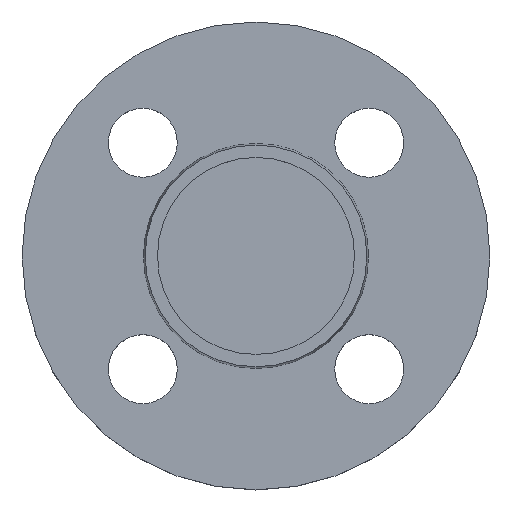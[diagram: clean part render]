
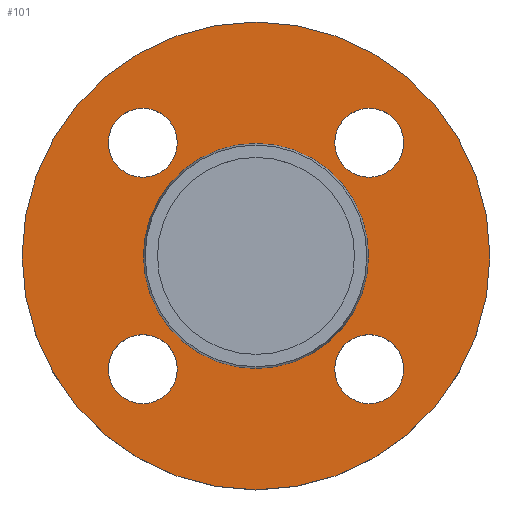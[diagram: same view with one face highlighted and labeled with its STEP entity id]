
A CAD part, top view. The second image highlights one B-rep face of the part: STEP entity #101.
In plain terms, the highlighted planar face has unit normal (0, 0, 1).
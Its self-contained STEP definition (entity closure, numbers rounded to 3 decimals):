
#4 = CIRCLE ( 'NONE', #7, 7. ) ;
#6 = CIRCLE ( 'NONE', #95, 7. ) ;
#7 = AXIS2_PLACEMENT_3D ( 'NONE', #315, #316, #317 ) ;
#14 = EDGE_CURVE ( 'NONE', #301, #137, #93, .T. ) ;
#19 = CIRCLE ( 'NONE', #21, 22.853 ) ;
#21 = AXIS2_PLACEMENT_3D ( 'NONE', #339, #340, #341 ) ;
#22 = EDGE_CURVE ( 'NONE', #242, #161, #4, .T. ) ;
#35 = CIRCLE ( 'NONE', #36, 7. ) ;
#36 = AXIS2_PLACEMENT_3D ( 'NONE', #356, #357, #358 ) ;
#43 = AXIS2_PLACEMENT_3D ( 'NONE', #387, #389, #390 ) ;
#47 = EDGE_CURVE ( 'NONE', #263, #297, #19, .T. ) ;
#48 = CIRCLE ( 'NONE', #50, 22.853 ) ;
#50 = AXIS2_PLACEMENT_3D ( 'NONE', #396, #397, #398 ) ;
#52 = CIRCLE ( 'NONE', #53, 7. ) ;
#53 = AXIS2_PLACEMENT_3D ( 'NONE', #400, #401, #402 ) ;
#56 = CIRCLE ( 'NONE', #62, 7. ) ;
#62 = AXIS2_PLACEMENT_3D ( 'NONE', #407, #408, #409 ) ;
#65 = CIRCLE ( 'NONE', #67, 7. ) ;
#67 = AXIS2_PLACEMENT_3D ( 'NONE', #415, #416, #417 ) ;
#68 = CIRCLE ( 'NONE', #70, 7. ) ;
#70 = AXIS2_PLACEMENT_3D ( 'NONE', #418, #419, #420 ) ;
#81 = EDGE_CURVE ( 'NONE', #294, #146, #35, .T. ) ;
#82 = AXIS2_PLACEMENT_3D ( 'NONE', #445, #446, #447 ) ;
#84 = CIRCLE ( 'NONE', #82, 47.5 ) ;
#90 = AXIS2_PLACEMENT_3D ( 'NONE', #308, #309, #310 ) ;
#93 = CIRCLE ( 'NONE', #90, 47.5 ) ;
#94 = AXIS2_PLACEMENT_3D ( 'NONE', #481, #482, #483 ) ;
#95 = AXIS2_PLACEMENT_3D ( 'NONE', #594, #595, #596 ) ;
#101 = ADVANCED_FACE ( 'NONE', ( #376, #378, #380, #381, #382, #383 ), #384, .T. ) ;
#124 = EDGE_CURVE ( 'NONE', #297, #263, #48, .T. ) ;
#126 = EDGE_CURVE ( 'NONE', #161, #242, #52, .T. ) ;
#128 = EDGE_CURVE ( 'NONE', #264, #135, #56, .T. ) ;
#131 = EDGE_CURVE ( 'NONE', #146, #294, #65, .T. ) ;
#134 = EDGE_CURVE ( 'NONE', #298, #140, #68, .T. ) ;
#135 = VERTEX_POINT ( 'NONE', #421 ) ;
#137 = VERTEX_POINT ( 'NONE', #422 ) ;
#140 = VERTEX_POINT ( 'NONE', #423 ) ;
#144 = ORIENTED_EDGE ( 'NONE', *, *, #81, .T. ) ;
#145 = ORIENTED_EDGE ( 'NONE', *, *, #134, .T. ) ;
#146 = VERTEX_POINT ( 'NONE', #426 ) ;
#150 = ORIENTED_EDGE ( 'NONE', *, *, #257, .T. ) ;
#151 = ORIENTED_EDGE ( 'NONE', *, *, #128, .T. ) ;
#158 = ORIENTED_EDGE ( 'NONE', *, *, #47, .T. ) ;
#161 = VERTEX_POINT ( 'NONE', #433 ) ;
#162 = ORIENTED_EDGE ( 'NONE', *, *, #22, .T. ) ;
#163 = ORIENTED_EDGE ( 'NONE', *, *, #542, .T. ) ;
#167 = ORIENTED_EDGE ( 'NONE', *, *, #126, .T. ) ;
#171 = ORIENTED_EDGE ( 'NONE', *, *, #124, .T. ) ;
#194 = EDGE_CURVE ( 'NONE', #137, #301, #84, .T. ) ;
#242 = VERTEX_POINT ( 'NONE', #479 ) ;
#245 = EDGE_LOOP ( 'NONE', ( #151, #163 ) ) ;
#257 = EDGE_CURVE ( 'NONE', #140, #298, #289, .T. ) ;
#263 = VERTEX_POINT ( 'NONE', #493 ) ;
#264 = VERTEX_POINT ( 'NONE', #494 ) ;
#271 = EDGE_LOOP ( 'NONE', ( #145, #150 ) ) ;
#274 = EDGE_LOOP ( 'NONE', ( #171, #158 ) ) ;
#275 = ORIENTED_EDGE ( 'NONE', *, *, #131, .T. ) ;
#285 = EDGE_LOOP ( 'NONE', ( #375, #305 ) ) ;
#287 = EDGE_LOOP ( 'NONE', ( #275, #144 ) ) ;
#289 = CIRCLE ( 'NONE', #94, 7. ) ;
#294 = VERTEX_POINT ( 'NONE', #509 ) ;
#297 = VERTEX_POINT ( 'NONE', #511 ) ;
#298 = VERTEX_POINT ( 'NONE', #513 ) ;
#299 = EDGE_LOOP ( 'NONE', ( #162, #167 ) ) ;
#301 = VERTEX_POINT ( 'NONE', #514 ) ;
#305 = ORIENTED_EDGE ( 'NONE', *, *, #14, .F. ) ;
#308 = CARTESIAN_POINT ( 'NONE',  ( 0., 0., -2. ) ) ;
#309 = DIRECTION ( 'NONE',  ( 0., 0., -1. ) ) ;
#310 = DIRECTION ( 'NONE',  ( -1., 0., 0. ) ) ;
#315 = CARTESIAN_POINT ( 'NONE',  ( 22.981, 22.981, -2. ) ) ;
#316 = DIRECTION ( 'NONE',  ( 0., 0., -1. ) ) ;
#317 = DIRECTION ( 'NONE',  ( 1., 0., 0. ) ) ;
#339 = CARTESIAN_POINT ( 'NONE',  ( 0., 0., -2. ) ) ;
#340 = DIRECTION ( 'NONE',  ( 0., 0., -1. ) ) ;
#341 = DIRECTION ( 'NONE',  ( -1., 0., 0. ) ) ;
#356 = CARTESIAN_POINT ( 'NONE',  ( -22.981, -22.981, -2. ) ) ;
#357 = DIRECTION ( 'NONE',  ( 0., 0., -1. ) ) ;
#358 = DIRECTION ( 'NONE',  ( 1., 0., 0. ) ) ;
#375 = ORIENTED_EDGE ( 'NONE', *, *, #194, .F. ) ;
#376 = FACE_BOUND ( 'NONE', #245, .T. ) ;
#378 = FACE_BOUND ( 'NONE', #287, .T. ) ;
#380 = FACE_BOUND ( 'NONE', #271, .T. ) ;
#381 = FACE_BOUND ( 'NONE', #299, .T. ) ;
#382 = FACE_BOUND ( 'NONE', #274, .T. ) ;
#383 = FACE_OUTER_BOUND ( 'NONE', #285, .T. ) ;
#384 = PLANE ( 'NONE',  #43 ) ;
#387 = CARTESIAN_POINT ( 'NONE',  ( 22.853, 0., -2. ) ) ;
#389 = DIRECTION ( 'NONE',  ( 0., 0., 1. ) ) ;
#390 = DIRECTION ( 'NONE',  ( 1., 0., 0. ) ) ;
#396 = CARTESIAN_POINT ( 'NONE',  ( 0., 0., -2. ) ) ;
#397 = DIRECTION ( 'NONE',  ( 0., 0., -1. ) ) ;
#398 = DIRECTION ( 'NONE',  ( -1., 0., 0. ) ) ;
#400 = CARTESIAN_POINT ( 'NONE',  ( 22.981, 22.981, -2. ) ) ;
#401 = DIRECTION ( 'NONE',  ( 0., 0., -1. ) ) ;
#402 = DIRECTION ( 'NONE',  ( 1., 0., 0. ) ) ;
#407 = CARTESIAN_POINT ( 'NONE',  ( 22.981, -22.981, -2. ) ) ;
#408 = DIRECTION ( 'NONE',  ( 0., 0., -1. ) ) ;
#409 = DIRECTION ( 'NONE',  ( 1., 0., 0. ) ) ;
#415 = CARTESIAN_POINT ( 'NONE',  ( -22.981, -22.981, -2. ) ) ;
#416 = DIRECTION ( 'NONE',  ( 0., 0., -1. ) ) ;
#417 = DIRECTION ( 'NONE',  ( 1., 0., 0. ) ) ;
#418 = CARTESIAN_POINT ( 'NONE',  ( -22.981, 22.981, -2. ) ) ;
#419 = DIRECTION ( 'NONE',  ( 0., 0., -1. ) ) ;
#420 = DIRECTION ( 'NONE',  ( 1., 0., 0. ) ) ;
#421 = CARTESIAN_POINT ( 'NONE',  ( 15.981, -22.981, -2. ) ) ;
#422 = CARTESIAN_POINT ( 'NONE',  ( 47.5, 0., -2. ) ) ;
#423 = CARTESIAN_POINT ( 'NONE',  ( -29.981, 22.981, -2. ) ) ;
#426 = CARTESIAN_POINT ( 'NONE',  ( -15.981, -22.981, -2. ) ) ;
#433 = CARTESIAN_POINT ( 'NONE',  ( 15.981, 22.981, -2. ) ) ;
#445 = CARTESIAN_POINT ( 'NONE',  ( 0., 0., -2. ) ) ;
#446 = DIRECTION ( 'NONE',  ( 0., 0., -1. ) ) ;
#447 = DIRECTION ( 'NONE',  ( -1., 0., 0. ) ) ;
#479 = CARTESIAN_POINT ( 'NONE',  ( 29.981, 22.981, -2. ) ) ;
#481 = CARTESIAN_POINT ( 'NONE',  ( -22.981, 22.981, -2. ) ) ;
#482 = DIRECTION ( 'NONE',  ( 0., 0., -1. ) ) ;
#483 = DIRECTION ( 'NONE',  ( 1., 0., 0. ) ) ;
#493 = CARTESIAN_POINT ( 'NONE',  ( 22.853, 0., -2. ) ) ;
#494 = CARTESIAN_POINT ( 'NONE',  ( 29.981, -22.981, -2. ) ) ;
#509 = CARTESIAN_POINT ( 'NONE',  ( -29.981, -22.981, -2. ) ) ;
#511 = CARTESIAN_POINT ( 'NONE',  ( -22.853, 0., -2. ) ) ;
#513 = CARTESIAN_POINT ( 'NONE',  ( -15.981, 22.981, -2. ) ) ;
#514 = CARTESIAN_POINT ( 'NONE',  ( -47.5, 0., -2. ) ) ;
#542 = EDGE_CURVE ( 'NONE', #135, #264, #6, .T. ) ;
#594 = CARTESIAN_POINT ( 'NONE',  ( 22.981, -22.981, -2. ) ) ;
#595 = DIRECTION ( 'NONE',  ( 0., 0., -1. ) ) ;
#596 = DIRECTION ( 'NONE',  ( 1., 0., 0. ) ) ;
